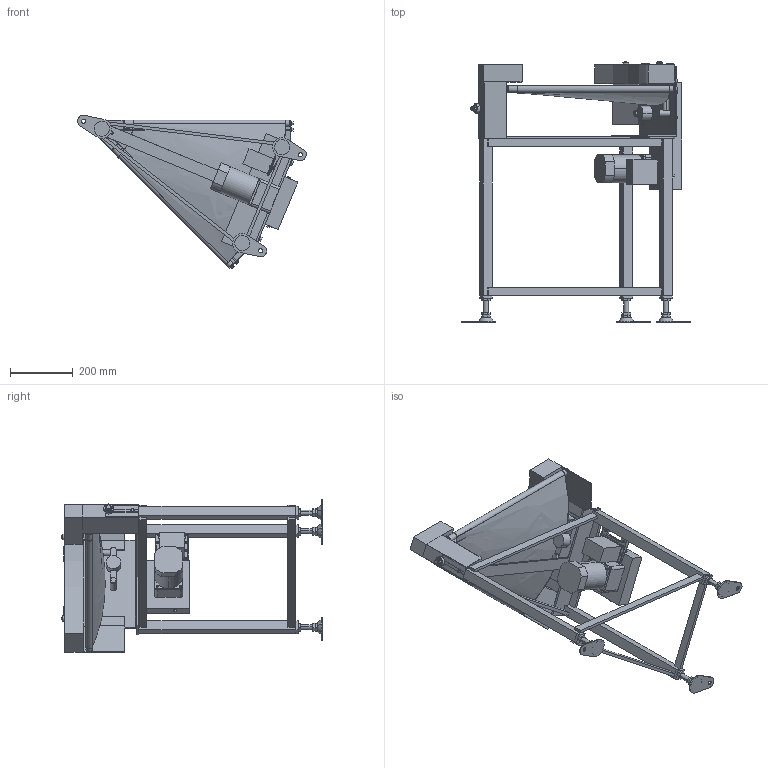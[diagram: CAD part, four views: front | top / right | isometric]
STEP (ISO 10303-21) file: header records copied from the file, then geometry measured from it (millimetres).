
FILE_DESCRIPTION( (''), '2;1');
FILE_NAME ('MMBC3-UD-309-400-45°-L-K-120.stp','2025-02-17T13:50:41',(''),(''),'spGate 20.6.2 (****-****-****-****)','','');
FILE_SCHEMA (('AUTOMOTIVE_DESIGN'));
Length unit declared in the file: millimetre
Products named in the file (39): NewModel; TEMP_X_T-prt0; TEMP_X_T-prt1; TEMP_X_T-prt2; TEMP_X_T-prt3; TEMP_X_T-prt4; TEMP_X_T-prt5; TEMP_X_T-prt6; TEMP_X_T-prt7; TEMP_X_T-prt8; TEMP_X_T-prt9; TEMP_X_T-prt10; TEMP_X_T-prt11; TEMP_X_T-prt12; TEMP_X_T-prt13; TEMP_X_T-prt14; TEMP_X_T-prt15; TEMP_X_T-prt16; TEMP_X_T-prt17; TEMP_X_T-prt18; TEMP_X_T-prt19; TEMP_X_T-prt20; TEMP_X_T-prt21; TEMP_X_T-prt22; TEMP_X_T-prt23; TEMP_X_T-prt24; TEMP_X_T-prt25; TEMP_X_T-prt26; TEMP_X_T-prt27; TEMP_X_T-prt28; TEMP_X_T-prt29; TEMP_X_T-prt30; TEMP_X_T-prt31; TEMP_X_T-prt32; TEMP_X_T-prt33; TEMP_X_T-prt34; TEMP_X_T-prt35; TEMP_X_T-prt36; TEMP_X_T-prt37
Assembly tree (38 placements, depth 2):
  NewModel
    TEMP_X_T-prt0
    TEMP_X_T-prt1
    TEMP_X_T-prt2
    TEMP_X_T-prt3
    TEMP_X_T-prt4
    TEMP_X_T-prt5
    TEMP_X_T-prt6
    TEMP_X_T-prt7
    TEMP_X_T-prt8
    TEMP_X_T-prt9
    TEMP_X_T-prt10
    TEMP_X_T-prt11
    TEMP_X_T-prt12
    TEMP_X_T-prt13
    TEMP_X_T-prt14
    TEMP_X_T-prt15
    TEMP_X_T-prt16
    TEMP_X_T-prt17
    TEMP_X_T-prt18
    TEMP_X_T-prt19
    TEMP_X_T-prt20
    TEMP_X_T-prt21
    TEMP_X_T-prt22
    TEMP_X_T-prt23
    TEMP_X_T-prt24
    TEMP_X_T-prt25
    TEMP_X_T-prt26
    TEMP_X_T-prt27
    TEMP_X_T-prt28
    TEMP_X_T-prt29
    TEMP_X_T-prt30
    TEMP_X_T-prt31
    TEMP_X_T-prt32
    TEMP_X_T-prt33
    TEMP_X_T-prt34
    TEMP_X_T-prt35
    TEMP_X_T-prt36
    TEMP_X_T-prt37
Bounding box: 726.11 x 827.52 x 487.76 mm (x, y, z)
Volume: 11869544 mm3; surface area: 2361920.6 mm2
Topology: 38 solids, 38 shells, 1064 faces, 2526 edges, 1630 vertices
Faces by surface type: plane 729, cylinder 267, bspline 64, sphere 4
Entity records: 55473 total; most frequent: CARTESIAN_POINT 9192, ORIENTED_EDGE 5044, DIRECTION 5027, COLOUR_RGB 3624, PRESENTATION_STYLE_ASSIGNMENT 3624, STYLED_ITEM 3624, EDGE_CURVE 2522, DRAUGHTING_PRE_DEFINED_CURVE_FONT 2522
